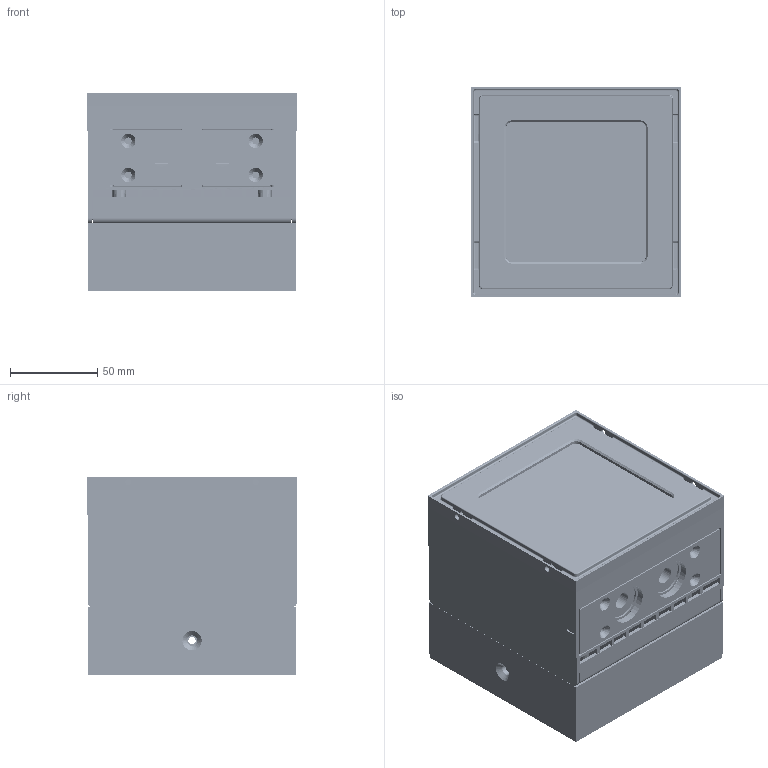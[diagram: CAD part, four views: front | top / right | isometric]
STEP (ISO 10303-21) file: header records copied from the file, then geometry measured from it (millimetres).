
FILE_DESCRIPTION((''),'2;1');
FILE_NAME('120-01_ASM','2025-03-04T',('Administrator'),(''),'CREO PARAMETRIC BY PTC INC, 2014190','CREO PARAMETRIC BY PTC INC, 2014190','');
FILE_SCHEMA(('CONFIG_CONTROL_DESIGN'));
Products named in the file (25): DENGTI; M5X16; LENS-GUANGYUANBAN; JIEGUANGZHAO-03; 3EL-ZUIZHONGDANG-MG; MIANGAIFANGSHUIQUAN; B49_ERHE; B49_ERHEYIGAIZI; ERHEYI-003_ASM; 3EL-JUEMUZHUHE; 3EL-DIANYUANHEGAI; TOUGUANGJIAN; XIDINGZUO; XIDINGZHIJIA; 3ELDENGTIGAIBAN; FANGXUANWANG_ASM; BIDENGYABAN; MUZHUHE-01-ZUIZHONGDANG; CEGAIFANGSHUIQUAN; FANGSHUISAI; FANGUANGSAI-1; PAD; PG9_ASM; 3EL-DIANYUANHEGAI-01; 120-01_ASM
Assembly tree (28 placements, depth 3):
  120-01_ASM
    DENGTI
    M5X16  x4
    LENS-GUANGYUANBAN
    JIEGUANGZHAO-03
    3EL-ZUIZHONGDANG-MG
    MIANGAIFANGSHUIQUAN
    ERHEYI-003_ASM  x2
      B49_ERHE
      B49_ERHEYIGAIZI
    3EL-JUEMUZHUHE
    3EL-DIANYUANHEGAI
    TOUGUANGJIAN
    XIDINGZUO
    XIDINGZHIJIA
    3ELDENGTIGAIBAN
    FANGXUANWANG_ASM
    BIDENGYABAN
    MUZHUHE-01-ZUIZHONGDANG
    CEGAIFANGSHUIQUAN
    PG9_ASM
      FANGSHUISAI
      FANGUANGSAI-1
      PAD
    3EL-DIANYUANHEGAI-01
Bounding box: 120.28 x 120.28 x 114 mm (x, y, z)
Volume: 630498.8 mm3; surface area: 454860 mm2
Topology: 26 solids, 26 shells, 6300 faces, 18642 edges, 12510 vertices
Faces by surface type: plane 2613, cylinder 1352, cone 1246, bspline 528, torus 446, extrusion 98, sphere 17
Entity records: 174344 total; most frequent: CARTESIAN_POINT 63666, ORIENTED_EDGE 25706, DIRECTION 19107, EDGE_CURVE 12853, VERTEX_POINT 8574, AXIS2_PLACEMENT_3D 6426, VECTOR 6255, LINE 6206
